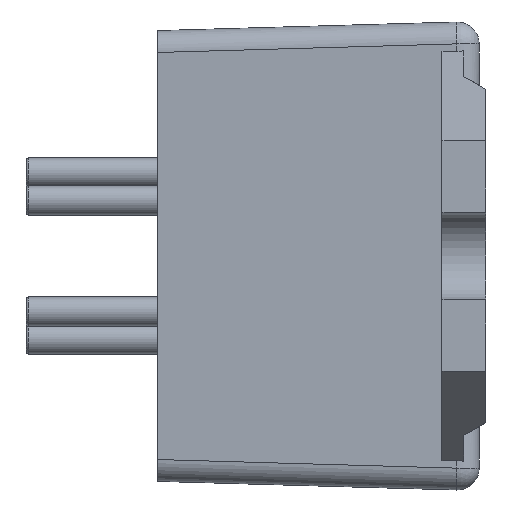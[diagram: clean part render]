
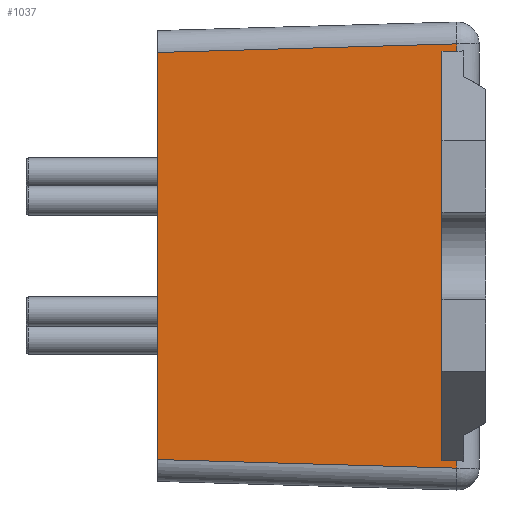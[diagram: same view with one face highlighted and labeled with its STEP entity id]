
A CAD part, left-side view. The second image highlights one B-rep face of the part: STEP entity #1037.
In plain terms, the highlighted planar face has unit normal (-1, 0.029, 0).
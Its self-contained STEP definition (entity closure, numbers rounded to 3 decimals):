
#39=PLANE('',#1153);
#76=LINE('',#1626,#166);
#80=LINE('',#1637,#170);
#83=LINE('',#1643,#173);
#84=LINE('',#1645,#174);
#85=LINE('',#1647,#175);
#86=LINE('',#1649,#176);
#87=LINE('',#1651,#177);
#88=LINE('',#1652,#178);
#166=VECTOR('',#1327,10.);
#170=VECTOR('',#1339,10.);
#173=VECTOR('',#1346,10.);
#174=VECTOR('',#1347,10.);
#175=VECTOR('',#1348,10.);
#176=VECTOR('',#1349,10.);
#177=VECTOR('',#1350,10.);
#178=VECTOR('',#1351,10.);
#282=FACE_OUTER_BOUND('',#338,.T.);
#338=EDGE_LOOP('',(#758,#759,#760,#761,#762,#763,#764,#765));
#455=VERTEX_POINT('',#1614);
#460=VERTEX_POINT('',#1625);
#463=VERTEX_POINT('',#1635);
#464=VERTEX_POINT('',#1642);
#465=VERTEX_POINT('',#1644);
#466=VERTEX_POINT('',#1646);
#467=VERTEX_POINT('',#1648);
#468=VERTEX_POINT('',#1650);
#566=EDGE_CURVE('',#455,#460,#76,.T.);
#572=EDGE_CURVE('',#463,#455,#80,.T.);
#575=EDGE_CURVE('',#463,#464,#83,.T.);
#576=EDGE_CURVE('',#465,#464,#84,.T.);
#577=EDGE_CURVE('',#466,#465,#85,.T.);
#578=EDGE_CURVE('',#467,#466,#86,.T.);
#579=EDGE_CURVE('',#468,#467,#87,.T.);
#580=EDGE_CURVE('',#460,#468,#88,.T.);
#758=ORIENTED_EDGE('',*,*,#566,.F.);
#759=ORIENTED_EDGE('',*,*,#572,.F.);
#760=ORIENTED_EDGE('',*,*,#575,.T.);
#761=ORIENTED_EDGE('',*,*,#576,.F.);
#762=ORIENTED_EDGE('',*,*,#577,.F.);
#763=ORIENTED_EDGE('',*,*,#578,.F.);
#764=ORIENTED_EDGE('',*,*,#579,.F.);
#765=ORIENTED_EDGE('',*,*,#580,.F.);
#1037=ADVANCED_FACE('',(#282),#39,.T.);
#1153=AXIS2_PLACEMENT_3D('',#1641,#1344,#1345);
#1327=DIRECTION('',(0.,0.,-1.));
#1339=DIRECTION('',(-0.029,-0.999,0.029));
#1344=DIRECTION('center_axis',(-1.,0.029,0.));
#1345=DIRECTION('ref_axis',(0.,0.,
1.));
#1346=DIRECTION('',(0.,0.,-1.));
#1347=DIRECTION('',(0.029,0.999,0.029));
#1348=DIRECTION('',(0.,0.,-1.));
#1349=DIRECTION('',(-0.029,-0.999,0.017));
#1350=DIRECTION('',(0.,0.,-1.));
#1351=DIRECTION('',(0.029,0.999,0.017));
#1614=CARTESIAN_POINT('',(-10.695,1.329,9.696));
#1625=CARTESIAN_POINT('',(-10.695,1.329,9.352));
#1626=CARTESIAN_POINT('',(-10.695,1.329,5.362));
#1635=CARTESIAN_POINT('',(-10.302,15.,9.302));
#1637=CARTESIAN_POINT('',(-10.717,0.58,9.717));
#1641=CARTESIAN_POINT('Origin',(-10.725,0.3,10.725));
#1642=CARTESIAN_POINT('',(-10.302,15.,-9.302));
#1643=CARTESIAN_POINT('',(-10.302,15.,-10.725));
#1644=CARTESIAN_POINT('',(-10.695,1.329,-9.696));
#1645=CARTESIAN_POINT('',(-10.717,0.58,-9.717));
#1646=CARTESIAN_POINT('',(-10.695,1.329,-9.352));
#1647=CARTESIAN_POINT('',(-10.695,1.329,5.362));
#1648=CARTESIAN_POINT('',(-10.676,2.,-9.363));
#1649=CARTESIAN_POINT('',(-10.738,-0.151,-9.327));
#1650=CARTESIAN_POINT('',(-10.676,2.,9.363));
#1651=CARTESIAN_POINT('',(-10.676,2.,5.362));
#1652=CARTESIAN_POINT('',(-10.729,0.166,9.332));
